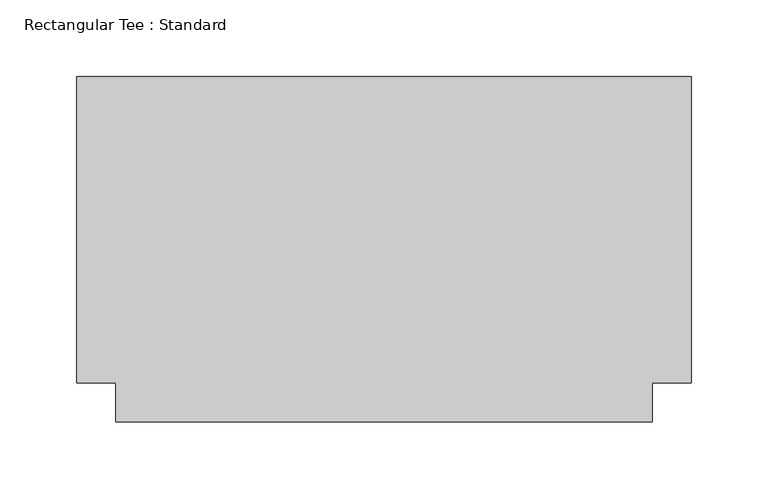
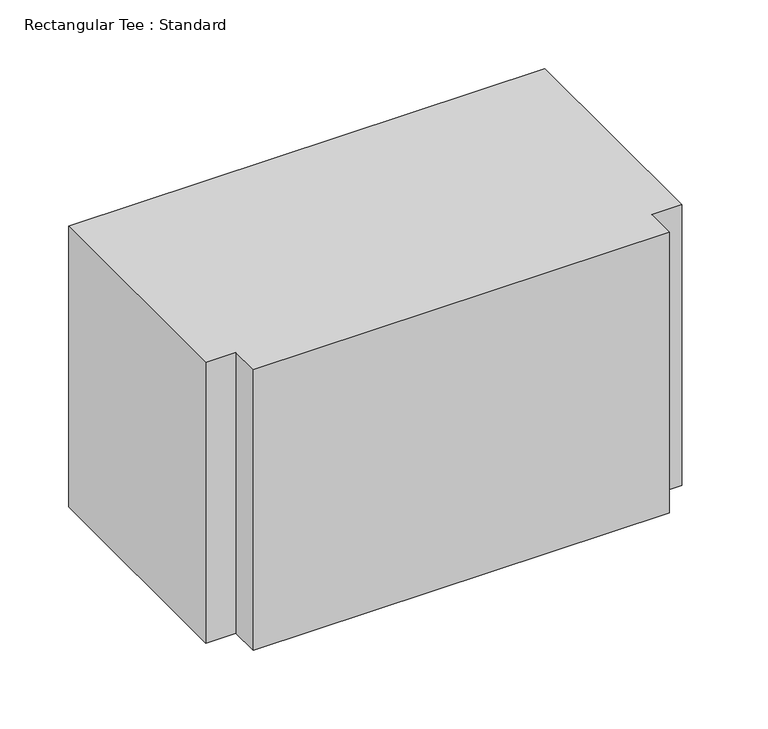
"""IFC4 building model written with IfcOpenShell, lengths in millimetres: duct fitting geometry, Rectangular Tee : Standard."""

from ifc_helpers import new_model, si_unit, frame, origin, place, context, project, spatial, polyline, outline, extrude, source, transform, mapped, element, save


def rectangular_tee_standard_e6a0e8cc(model_context):
    return source(origin(), model_context, "Body", "SweptSolid", [
        extrude(outline(polyline([(-200.4, -100.0), (-200.4, 100.0), (200.4, 100.0), (200.4, -100.0), (175.0, -100.0), (175.0, -125.4), (-175.0, -125.4), (-175.0, -100.0), (-200.4, -100.0)])), frame((0.0, 0.0, -125.0), z_axis=(0.0, 0.0, 1.0), x_axis=(1.0, 0.0, 0.0)), (0.0, 0.0, 1.0), 250.0),
    ])


if __name__ == "__main__":
    model = new_model("IFC4")
    model_context = context("Model", 3, world=origin())
    ifc_project = project(units=[si_unit("LENGTHUNIT", "METRE", prefix="MILLI")], contexts=[model_context])
    site = spatial("IfcSite", under=ifc_project)
    building = spatial("IfcBuilding", under=site)
    placement = place(None, origin())
    rectangular_tee_standard_shape = rectangular_tee_standard_e6a0e8cc(model_context)
    element("IfcDuctFitting", 1, ObjectType="Rectangular Tee : Standard", at=placement, inside=building, context=model_context, shape_type="MappedRepresentation", body=[
        mapped(rectangular_tee_standard_shape, transform((0.0, 0.0, 0.0), x_axis=(1.0, 0.0, 0.0), y_axis=(0.0, 1.0, 0.0), z_axis=(0.0, 0.0, 1.0))),
    ])
    save(model, "model.ifc")
